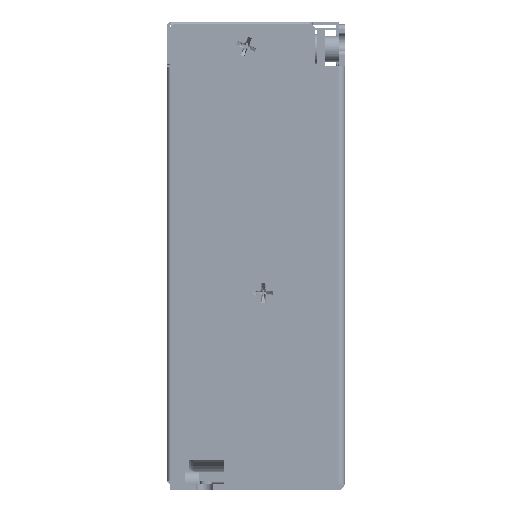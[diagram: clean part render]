
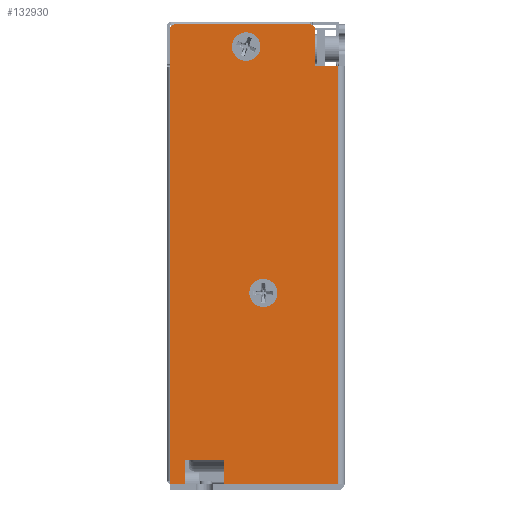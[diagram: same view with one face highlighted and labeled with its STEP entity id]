
A CAD part, left-side view. The second image highlights one B-rep face of the part: STEP entity #132930.
In plain terms, the highlighted planar face has unit normal (-1, 0, 0).
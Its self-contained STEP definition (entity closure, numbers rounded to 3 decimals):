
#720 = VECTOR ( 'NONE', #79653, 1000. ) ;
#1185 = EDGE_CURVE ( 'NONE', #133586, #33233, #74640, .T. ) ;
#3983 = CARTESIAN_POINT ( 'NONE',  ( 0., 16.5, 37.143 ) ) ;
#4237 = DIRECTION ( 'NONE',  ( -1., 0., 0. ) ) ;
#9138 = CARTESIAN_POINT ( 'NONE',  ( 0., 6., 86. ) ) ;
#11114 = EDGE_CURVE ( 'NONE', #69613, #113597, #101860, .T. ) ;
#11799 = ORIENTED_EDGE ( 'NONE', *, *, #92770, .F. ) ;
#13008 = CARTESIAN_POINT ( 'NONE',  ( 0., 20., 92.858 ) ) ;
#13108 = LINE ( 'NONE', #108059, #129188 ) ;
#15547 = VERTEX_POINT ( 'NONE', #44057 ) ;
#15646 = VERTEX_POINT ( 'NONE', #81577 ) ;
#16620 = CARTESIAN_POINT ( 'NONE',  ( 0., 24.5, 1.2 ) ) ;
#16971 = DIRECTION ( 'NONE',  ( -1., 0., 0. ) ) ;
#22015 = AXIS2_PLACEMENT_3D ( 'NONE', #86434, #16971, #98070 ) ;
#23413 = EDGE_CURVE ( 'NONE', #30637, #133586, #31867, .T. ) ;
#23562 = ORIENTED_EDGE ( 'NONE', *, *, #88422, .T. ) ;
#23995 = ORIENTED_EDGE ( 'NONE', *, *, #123000, .F. ) ;
#24025 = ORIENTED_EDGE ( 'NONE', *, *, #11114, .F. ) ;
#25710 = VECTOR ( 'NONE', #89475, 1000. ) ;
#25818 = ORIENTED_EDGE ( 'NONE', *, *, #130408, .T. ) ;
#28113 = DIRECTION ( 'NONE',  ( 0., -1., 0. ) ) ;
#28419 = CARTESIAN_POINT ( 'NONE',  ( 0., 6., 93.5 ) ) ;
#29851 = CARTESIAN_POINT ( 'NONE',  ( 0., 0., 0. ) ) ;
#30637 = VERTEX_POINT ( 'NONE', #137508 ) ;
#31245 = ORIENTED_EDGE ( 'NONE', *, *, #51311, .F. ) ;
#31867 = LINE ( 'NONE', #9138, #35496 ) ;
#33233 = VERTEX_POINT ( 'NONE', #102523 ) ;
#34531 = VERTEX_POINT ( 'NONE', #28419 ) ;
#34574 = DIRECTION ( 'NONE',  ( -1., 0., 0. ) ) ;
#34603 = CIRCLE ( 'NONE', #22015, 2.857 ) ;
#35496 = VECTOR ( 'NONE', #101410, 1000. ) ;
#35753 = VECTOR ( 'NONE', #142870, 1000. ) ;
#37164 = LINE ( 'NONE', #143668, #126045 ) ;
#37501 = VECTOR ( 'NONE', #64893, 1000. ) ;
#38139 = CARTESIAN_POINT ( 'NONE',  ( 0., 34.5, 93.5 ) ) ;
#38688 = ORIENTED_EDGE ( 'NONE', *, *, #106325, .F. ) ;
#41500 = DIRECTION ( 'NONE',  ( 0., 1., 0. ) ) ;
#43002 = EDGE_CURVE ( 'NONE', #143052, #140156, #128276, .T. ) ;
#43742 = VECTOR ( 'NONE', #61018, 1000. ) ;
#44057 = CARTESIAN_POINT ( 'NONE',  ( 0., 16.5, 42.858 ) ) ;
#44599 = VERTEX_POINT ( 'NONE', #92640 ) ;
#45330 = CARTESIAN_POINT ( 'NONE',  ( 0., 1.3, 86. ) ) ;
#45946 = ORIENTED_EDGE ( 'NONE', *, *, #99816, .T. ) ;
#47588 = CIRCLE ( 'NONE', #76330, 1. ) ;
#47933 = ORIENTED_EDGE ( 'NONE', *, *, #115950, .T. ) ;
#48156 = CARTESIAN_POINT ( 'NONE',  ( 0., 16.5, 40. ) ) ;
#49797 = DIRECTION ( 'NONE',  ( 0., 1., 0. ) ) ;
#50131 = ORIENTED_EDGE ( 'NONE', *, *, #43002, .T. ) ;
#50794 = ORIENTED_EDGE ( 'NONE', *, *, #81694, .F. ) ;
#51311 = EDGE_CURVE ( 'NONE', #34531, #30637, #56543, .T. ) ;
#52104 = EDGE_LOOP ( 'NONE', ( #11799, #50794 ) ) ;
#52848 = DIRECTION ( 'NONE',  ( -1., 0., 0. ) ) ;
#53181 = CARTESIAN_POINT ( 'NONE',  ( 0., 32.5, 6. ) ) ;
#54421 = VECTOR ( 'NONE', #97728, 1000. ) ;
#56374 = CARTESIAN_POINT ( 'NONE',  ( 0., 32.5, 1.2 ) ) ;
#56543 = LINE ( 'NONE', #77865, #25710 ) ;
#56884 = DIRECTION ( 'NONE',  ( 0., 0., -1. ) ) ;
#59861 = DIRECTION ( 'NONE',  ( 0., 0., 1. ) ) ;
#61018 = DIRECTION ( 'NONE',  ( 0., 0., -1. ) ) ;
#64893 = DIRECTION ( 'NONE',  ( 0., 1., 0. ) ) ;
#68392 = LINE ( 'NONE', #53181, #37501 ) ;
#69613 = VERTEX_POINT ( 'NONE', #89959 ) ;
#71638 = VERTEX_POINT ( 'NONE', #103415 ) ;
#73704 = CARTESIAN_POINT ( 'NONE',  ( 0., 20., 90. ) ) ;
#73889 = VERTEX_POINT ( 'NONE', #74630 ) ;
#74630 = CARTESIAN_POINT ( 'NONE',  ( 0., 24.5, 1.3 ) ) ;
#74640 = LINE ( 'NONE', #107047, #43742 ) ;
#76330 = AXIS2_PLACEMENT_3D ( 'NONE', #38139, #119207, #49797 ) ;
#77865 = CARTESIAN_POINT ( 'NONE',  ( 0., 6., 94.5 ) ) ;
#78290 = AXIS2_PLACEMENT_3D ( 'NONE', #122267, #52848, #133953 ) ;
#79653 = DIRECTION ( 'NONE',  ( 0., 0., -1. ) ) ;
#81577 = CARTESIAN_POINT ( 'NONE',  ( 0., 35.5, 93.5 ) ) ;
#81694 = EDGE_CURVE ( 'NONE', #150456, #15547, #34603, .T. ) ;
#82694 = CARTESIAN_POINT ( 'NONE',  ( 0., 35.5, 1.3 ) ) ;
#83211 = CIRCLE ( 'NONE', #78290, 1. ) ;
#84091 = CARTESIAN_POINT ( 'NONE',  ( 0., 0., 94.5 ) ) ;
#85350 = DIRECTION ( 'NONE',  ( 0., 0., 1. ) ) ;
#86022 = EDGE_LOOP ( 'NONE', ( #50131, #134841, #25818, #23562, #114708, #23995, #38688, #47933, #139996, #92363, #31245, #45946 ) ) ;
#86434 = CARTESIAN_POINT ( 'NONE',  ( 0., 16.5, 40. ) ) ;
#87309 = EDGE_CURVE ( 'NONE', #117566, #71638, #119007, .T. ) ;
#88266 = VECTOR ( 'NONE', #56884, 1000. ) ;
#88422 = EDGE_CURVE ( 'NONE', #101993, #71638, #37164, .T. ) ;
#89032 = FACE_BOUND ( 'NONE', #52104, .T. ) ;
#89475 = DIRECTION ( 'NONE',  ( 0., 0., -1. ) ) ;
#89959 = CARTESIAN_POINT ( 'NONE',  ( 0., 20., 87.142 ) ) ;
#92363 = ORIENTED_EDGE ( 'NONE', *, *, #23413, .F. ) ;
#92510 = CARTESIAN_POINT ( 'NONE',  ( 0., 7., 94.5 ) ) ;
#92640 = CARTESIAN_POINT ( 'NONE',  ( 0., 24.5, 6. ) ) ;
#92770 = EDGE_CURVE ( 'NONE', #15547, #150456, #105854, .T. ) ;
#95328 = CARTESIAN_POINT ( 'NONE',  ( 0., 34.5, 94.5 ) ) ;
#96825 = LINE ( 'NONE', #125741, #720 ) ;
#96872 = CIRCLE ( 'NONE', #113621, 2.857 ) ;
#96933 = DIRECTION ( 'NONE',  ( 0., -1., 0. ) ) ;
#97728 = DIRECTION ( 'NONE',  ( 0., 0., 1. ) ) ;
#98070 = DIRECTION ( 'NONE',  ( 0., 0., 1. ) ) ;
#99816 = EDGE_CURVE ( 'NONE', #34531, #143052, #83211, .T. ) ;
#101410 = DIRECTION ( 'NONE',  ( 0., -1., 0. ) ) ;
#101860 = CIRCLE ( 'NONE', #141584, 2.857 ) ;
#101993 = VERTEX_POINT ( 'NONE', #82694 ) ;
#102523 = CARTESIAN_POINT ( 'NONE',  ( 0., 1.3, 1.3 ) ) ;
#103415 = CARTESIAN_POINT ( 'NONE',  ( 0., 32.5, 1.3 ) ) ;
#103699 = AXIS2_PLACEMENT_3D ( 'NONE', #48156, #129258, #59861 ) ;
#104003 = CARTESIAN_POINT ( 'NONE',  ( 0., 20., 90. ) ) ;
#104516 = EDGE_LOOP ( 'NONE', ( #112189, #24025 ) ) ;
#105854 = CIRCLE ( 'NONE', #103699, 2.857 ) ;
#106325 = EDGE_CURVE ( 'NONE', #73889, #44599, #143296, .T. ) ;
#107047 = CARTESIAN_POINT ( 'NONE',  ( 0., 1.3, 1.3 ) ) ;
#108059 = CARTESIAN_POINT ( 'NONE',  ( 0., 0., 1.3 ) ) ;
#110895 = DIRECTION ( 'NONE',  ( 1., 0., 0. ) ) ;
#112189 = ORIENTED_EDGE ( 'NONE', *, *, #143291, .F. ) ;
#112249 = CARTESIAN_POINT ( 'NONE',  ( 0., 32.5, 6. ) ) ;
#113597 = VERTEX_POINT ( 'NONE', #13008 ) ;
#113621 = AXIS2_PLACEMENT_3D ( 'NONE', #73704, #4237, #85350 ) ;
#114708 = ORIENTED_EDGE ( 'NONE', *, *, #87309, .F. ) ;
#115644 = DIRECTION ( 'NONE',  ( 0., 0., 1. ) ) ;
#115923 = EDGE_CURVE ( 'NONE', #140156, #15646, #47588, .T. ) ;
#115950 = EDGE_CURVE ( 'NONE', #73889, #33233, #13108, .T. ) ;
#117566 = VERTEX_POINT ( 'NONE', #112249 ) ;
#119007 = LINE ( 'NONE', #56374, #88266 ) ;
#119207 = DIRECTION ( 'NONE',  ( -1., 0., 0. ) ) ;
#119787 = FACE_OUTER_BOUND ( 'NONE', #86022, .T. ) ;
#122044 = PLANE ( 'NONE',  #126449 ) ;
#122267 = CARTESIAN_POINT ( 'NONE',  ( 0., 7., 93.5 ) ) ;
#123000 = EDGE_CURVE ( 'NONE', #44599, #117566, #68392, .T. ) ;
#123471 = FACE_BOUND ( 'NONE', #104516, .T. ) ;
#125741 = CARTESIAN_POINT ( 'NONE',  ( 0., 35.5, 0. ) ) ;
#126045 = VECTOR ( 'NONE', #28113, 1000. ) ;
#126449 = AXIS2_PLACEMENT_3D ( 'NONE', #29851, #110895, #41500 ) ;
#128276 = LINE ( 'NONE', #84091, #35753 ) ;
#129188 = VECTOR ( 'NONE', #96933, 1000. ) ;
#129258 = DIRECTION ( 'NONE',  ( -1., 0., 0. ) ) ;
#130408 = EDGE_CURVE ( 'NONE', #15646, #101993, #96825, .T. ) ;
#132930 = ADVANCED_FACE ( 'NONE', ( #89032, #119787, #123471 ), #122044, .F. ) ;
#133586 = VERTEX_POINT ( 'NONE', #45330 ) ;
#133953 = DIRECTION ( 'NONE',  ( 0., 1., 0. ) ) ;
#134841 = ORIENTED_EDGE ( 'NONE', *, *, #115923, .T. ) ;
#137508 = CARTESIAN_POINT ( 'NONE',  ( 0., 6., 86. ) ) ;
#139996 = ORIENTED_EDGE ( 'NONE', *, *, #1185, .F. ) ;
#140156 = VERTEX_POINT ( 'NONE', #95328 ) ;
#141584 = AXIS2_PLACEMENT_3D ( 'NONE', #104003, #34574, #115644 ) ;
#142870 = DIRECTION ( 'NONE',  ( 0., 1., 0. ) ) ;
#143052 = VERTEX_POINT ( 'NONE', #92510 ) ;
#143291 = EDGE_CURVE ( 'NONE', #113597, #69613, #96872, .T. ) ;
#143296 = LINE ( 'NONE', #16620, #54421 ) ;
#143668 = CARTESIAN_POINT ( 'NONE',  ( 0., 0., 1.3 ) ) ;
#150456 = VERTEX_POINT ( 'NONE', #3983 ) ;
